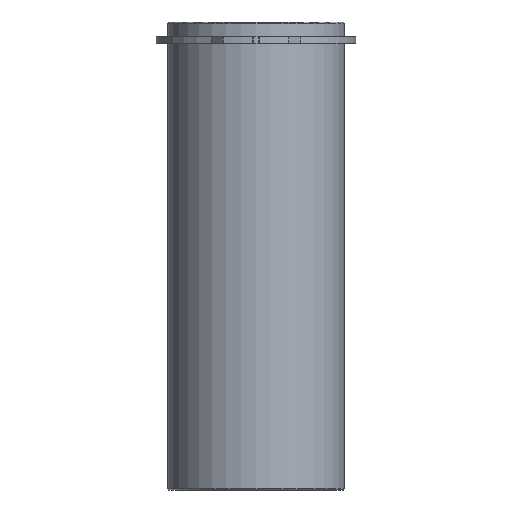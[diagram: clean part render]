
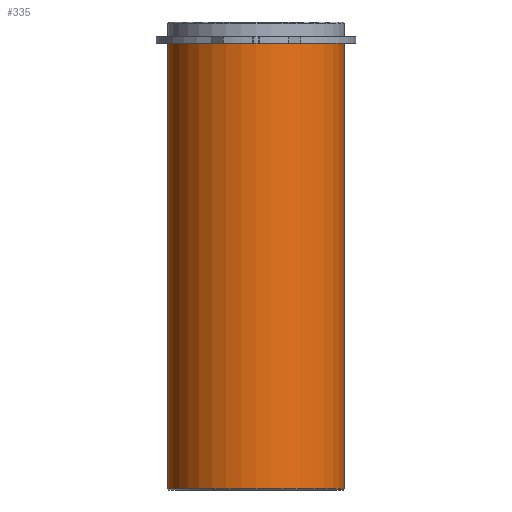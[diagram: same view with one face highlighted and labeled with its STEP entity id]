
A CAD part, front view. The second image highlights one B-rep face of the part: STEP entity #335.
In plain terms, the highlighted cylindrical face has radius 23.625 mm (diameter 47.25 mm), a partial arc.
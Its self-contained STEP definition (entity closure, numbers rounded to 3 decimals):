
#294=CARTESIAN_POINT('',(0.0,0.,-59.5));
#295=DIRECTION('',(0.0,0.,1.0));
#296=DIRECTION('',(1.0,0.0,0.0));
#297=AXIS2_PLACEMENT_3D('',#294,#295,#296);
#298=CYLINDRICAL_SURFACE('',#297,23.625);
#299=CARTESIAN_POINT('',(23.625,0.0,0.0));
#300=VERTEX_POINT('',#299);
#301=CARTESIAN_POINT('',(23.625,0.,-119.0));
#302=VERTEX_POINT('',#301);
#303=CARTESIAN_POINT('',(23.625,0.0,0.0));
#304=DIRECTION('',(0.0,0.0,-1.0));
#305=VECTOR('',#304,119.0);
#306=LINE('',#303,#305);
#307=EDGE_CURVE('',#300,#302,#306,.T.);
#308=ORIENTED_EDGE('',*,*,#307,.F.);
#309=CARTESIAN_POINT('',(-23.625,0.,0.0));
#310=VERTEX_POINT('',#309);
#311=CARTESIAN_POINT('',(0.0,0.0,0.0));
#312=DIRECTION('',(0.0,0.0,1.0));
#313=DIRECTION('',(1.0,0.0,0.0));
#314=AXIS2_PLACEMENT_3D('',#311,#312,#313);
#315=CIRCLE('',#314,23.625);
#316=EDGE_CURVE('',#310,#300,#315,.T.);
#317=ORIENTED_EDGE('',*,*,#316,.F.);
#318=CARTESIAN_POINT('',(-23.625,0.,-119.0));
#319=VERTEX_POINT('',#318);
#320=CARTESIAN_POINT('',(-23.625,0.,0.0));
#321=DIRECTION('',(0.0,0.0,-1.0));
#322=VECTOR('',#321,119.0);
#323=LINE('',#320,#322);
#324=EDGE_CURVE('',#310,#319,#323,.T.);
#325=ORIENTED_EDGE('',*,*,#324,.T.);
#326=CARTESIAN_POINT('',(0.0,0.,-119.0));
#327=DIRECTION('',(0.0,0.0,1.0));
#328=DIRECTION('',(1.0,0.0,0.0));
#329=AXIS2_PLACEMENT_3D('',#326,#327,#328);
#330=CIRCLE('',#329,23.625);
#331=EDGE_CURVE('',#319,#302,#330,.T.);
#332=ORIENTED_EDGE('',*,*,#331,.T.);
#333=EDGE_LOOP('',(#308,#317,#325,#332));
#334=FACE_OUTER_BOUND('',#333,.T.);
#335=ADVANCED_FACE('',(#334),#298,.T.);
